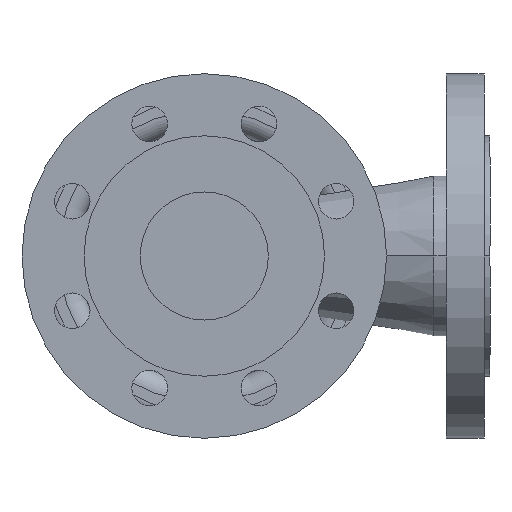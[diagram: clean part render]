
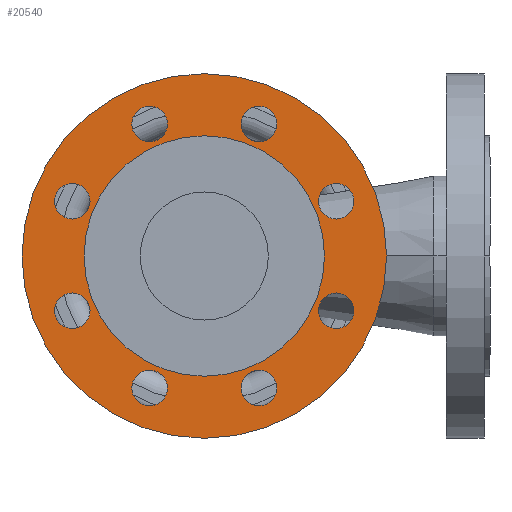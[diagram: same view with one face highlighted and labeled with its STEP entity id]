
A CAD part, front view. The second image highlights one B-rep face of the part: STEP entity #20540.
In plain terms, the highlighted planar face has unit normal (0, -1, 0).
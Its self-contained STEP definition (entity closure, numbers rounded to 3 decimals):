
#610=CARTESIAN_POINT('',(61.,3.,0.));
#620=VERTEX_POINT('',#610);
#650=CARTESIAN_POINT('',(0.,3.,0.));
#660=DIRECTION('',(0.,-1.,0.));
#670=DIRECTION('',(-1.,0.,0.));
#680=AXIS2_PLACEMENT_3D('',#650,#660,#670);
#690=CIRCLE('',#680,61.);
#700=CARTESIAN_POINT('',(-61.,3.,0.));
#710=VERTEX_POINT('',#700);
#720=EDGE_CURVE('',#710,#620,#690,.T.);
#7190=CARTESIAN_POINT('',(92.5,3.,0.));
#7200=VERTEX_POINT('',#7190);
#7230=CARTESIAN_POINT('',(0.,3.,0.));
#7240=DIRECTION('',(0.,1.,0.));
#7250=DIRECTION('',(1.,0.,0.));
#7260=AXIS2_PLACEMENT_3D('',#7230,#7240,#7250);
#7270=CIRCLE('',#7260,92.5);
#7280=CARTESIAN_POINT('',(-92.5,3.,0.));
#7290=VERTEX_POINT('',#7280);
#7300=EDGE_CURVE('',#7290,#7200,#7270,.T.);
#7680=CARTESIAN_POINT('',(57.981,3.,-27.745));
#7690=VERTEX_POINT('',#7680);
#7720=CARTESIAN_POINT('',(66.981,3.,-27.745));
#7730=DIRECTION('',(0.,1.,0.));
#7740=DIRECTION('',(1.,0.,0.));
#7750=AXIS2_PLACEMENT_3D('',#7720,#7730,#7740);
#7760=CIRCLE('',#7750,9.);
#7770=CARTESIAN_POINT('',(75.981,3.,-27.745));
#7780=VERTEX_POINT('',#7770);
#7790=EDGE_CURVE('',#7690,#7780,#7760,.T.);
#8170=CARTESIAN_POINT('',(75.981,3.,27.745));
#8180=VERTEX_POINT('',#8170);
#8210=CARTESIAN_POINT('',(66.981,3.,27.745));
#8220=DIRECTION('',(0.,1.,0.));
#8230=DIRECTION('',(1.,0.,0.));
#8240=AXIS2_PLACEMENT_3D('',#8210,#8220,#8230);
#8250=CIRCLE('',#8240,9.);
#8260=CARTESIAN_POINT('',(57.981,3.,27.745));
#8270=VERTEX_POINT('',#8260);
#8280=EDGE_CURVE('',#8180,#8270,#8250,.T.);
#8660=CARTESIAN_POINT('',(36.745,3.,-66.981));
#8670=VERTEX_POINT('',#8660);
#8700=CARTESIAN_POINT('',(27.745,3.,-66.981));
#8710=DIRECTION('',(0.,1.,0.));
#8720=DIRECTION('',(1.,0.,0.));
#8730=AXIS2_PLACEMENT_3D('',#8700,#8710,#8720);
#8740=CIRCLE('',#8730,9.);
#8750=CARTESIAN_POINT('',(18.745,3.,-66.981));
#8760=VERTEX_POINT('',#8750);
#8770=EDGE_CURVE('',#8670,#8760,#8740,.T.);
#9150=CARTESIAN_POINT('',(36.745,3.,66.981));
#9160=VERTEX_POINT('',#9150);
#9320=CARTESIAN_POINT('',(18.745,3.,66.981));
#9330=VERTEX_POINT('',#9320);
#9360=CARTESIAN_POINT('',(27.745,3.,66.981));
#9370=DIRECTION('',(0.,1.,0.));
#9380=DIRECTION('',(1.,0.,0.));
#9390=AXIS2_PLACEMENT_3D('',#9360,#9370,#9380);
#9400=CIRCLE('',#9390,9.);
#9410=EDGE_CURVE('',#9330,#9160,#9400,.T.);
#9640=CARTESIAN_POINT('',(-36.745,3.,-66.981));
#9650=VERTEX_POINT('',#9640);
#9810=CARTESIAN_POINT('',(-18.745,3.,-66.981));
#9820=VERTEX_POINT('',#9810);
#9850=CARTESIAN_POINT('',(-27.745,3.,-66.981));
#9860=DIRECTION('',(0.,1.,0.));
#9870=DIRECTION('',(1.,0.,0.));
#9880=AXIS2_PLACEMENT_3D('',#9850,#9860,#9870);
#9890=CIRCLE('',#9880,9.);
#9900=EDGE_CURVE('',#9820,#9650,#9890,.T.);
#10130=CARTESIAN_POINT('',(-36.745,3.,66.981));
#10140=VERTEX_POINT('',#10130);
#10300=CARTESIAN_POINT('',(-18.745,3.,66.981));
#10310=VERTEX_POINT('',#10300);
#10340=CARTESIAN_POINT('',(-27.745,3.,66.981));
#10350=DIRECTION('',(0.,1.,0.));
#10360=DIRECTION('',(1.,0.,0.));
#10370=AXIS2_PLACEMENT_3D('',#10340,#10350,#10360);
#10380=CIRCLE('',#10370,9.);
#10390=EDGE_CURVE('',#10310,#10140,#10380,.T.);
#10620=CARTESIAN_POINT('',(-57.981,3.,-27.745));
#10630=VERTEX_POINT('',#10620);
#10790=CARTESIAN_POINT('',(-75.981,3.,-27.745));
#10800=VERTEX_POINT('',#10790);
#10830=CARTESIAN_POINT('',(-66.981,3.,-27.745));
#10840=DIRECTION('',(0.,1.,0.));
#10850=DIRECTION('',(1.,0.,0.));
#10860=AXIS2_PLACEMENT_3D('',#10830,#10840,#10850);
#10870=CIRCLE('',#10860,9.);
#10880=EDGE_CURVE('',#10800,#10630,#10870,.T.);
#11110=CARTESIAN_POINT('',(-57.981,3.,27.745));
#11120=VERTEX_POINT('',#11110);
#11150=CARTESIAN_POINT('',(-66.981,3.,27.745));
#11160=DIRECTION('',(0.,1.,0.));
#11170=DIRECTION('',(1.,0.,0.));
#11180=AXIS2_PLACEMENT_3D('',#11150,#11160,#11170);
#11190=CIRCLE('',#11180,9.);
#11200=CARTESIAN_POINT('',(-75.981,3.,27.745));
#11210=VERTEX_POINT('',#11200);
#11220=EDGE_CURVE('',#11120,#11210,#11190,.T.);
#19990=CARTESIAN_POINT('',(0.,3.,0.));
#20000=DIRECTION('',(0.,1.,0.));
#20010=DIRECTION('',(0.,0.,1.));
#20020=AXIS2_PLACEMENT_3D('',#19990,#20000,#20010);
#20030=PLANE('',#20020);
#20040=EDGE_CURVE('',#11210,#11120,#11190,.T.);
#20050=ORIENTED_EDGE('',*,*,#20040,.T.);
#20060=ORIENTED_EDGE('',*,*,#11220,.T.);
#20070=EDGE_LOOP('',(#20060,#20050));
#20080=FACE_BOUND('',#20070,.T.);
#20090=EDGE_CURVE('',#10630,#10800,#10870,.T.);
#20100=ORIENTED_EDGE('',*,*,#20090,.T.);
#20110=ORIENTED_EDGE('',*,*,#10880,.T.);
#20120=EDGE_LOOP('',(#20110,#20100));
#20130=FACE_BOUND('',#20120,.T.);
#20140=EDGE_CURVE('',#10140,#10310,#10380,.T.);
#20150=ORIENTED_EDGE('',*,*,#20140,.T.);
#20160=ORIENTED_EDGE('',*,*,#10390,.T.);
#20170=EDGE_LOOP('',(#20160,#20150));
#20180=FACE_BOUND('',#20170,.T.);
#20190=EDGE_CURVE('',#9650,#9820,#9890,.T.);
#20200=ORIENTED_EDGE('',*,*,#20190,.T.);
#20210=ORIENTED_EDGE('',*,*,#9900,.T.);
#20220=EDGE_LOOP('',(#20210,#20200));
#20230=FACE_BOUND('',#20220,.T.);
#20240=EDGE_CURVE('',#9160,#9330,#9400,.T.);
#20250=ORIENTED_EDGE('',*,*,#20240,.T.);
#20260=ORIENTED_EDGE('',*,*,#9410,.T.);
#20270=EDGE_LOOP('',(#20260,#20250));
#20280=FACE_BOUND('',#20270,.T.);
#20290=ORIENTED_EDGE('',*,*,#8770,.T.);
#20300=EDGE_CURVE('',#8760,#8670,#8740,.T.);
#20310=ORIENTED_EDGE('',*,*,#20300,.T.);
#20320=EDGE_LOOP('',(#20310,#20290));
#20330=FACE_BOUND('',#20320,.T.);
#20340=EDGE_CURVE('',#8270,#8180,#8250,.T.);
#20350=ORIENTED_EDGE('',*,*,#20340,.T.);
#20360=ORIENTED_EDGE('',*,*,#8280,.T.);
#20370=EDGE_LOOP('',(#20360,#20350));
#20380=FACE_BOUND('',#20370,.T.);
#20390=ORIENTED_EDGE('',*,*,#7790,.T.);
#20400=EDGE_CURVE('',#7780,#7690,#7760,.T.);
#20410=ORIENTED_EDGE('',*,*,#20400,.T.);
#20420=EDGE_LOOP('',(#20410,#20390));
#20430=FACE_BOUND('',#20420,.T.);
#20440=ORIENTED_EDGE('',*,*,#7300,.F.);
#20450=EDGE_CURVE('',#7200,#7290,#7270,.T.);
#20460=ORIENTED_EDGE('',*,*,#20450,.F.);
#20470=EDGE_LOOP('',(#20460,#20440));
#20480=FACE_OUTER_BOUND('',#20470,.T.);
#20490=ORIENTED_EDGE('',*,*,#720,.F.);
#20500=EDGE_CURVE('',#620,#710,#690,.T.);
#20510=ORIENTED_EDGE('',*,*,#20500,.F.);
#20520=EDGE_LOOP('',(#20510,#20490));
#20530=FACE_BOUND('',#20520,.T.);
#20540=ADVANCED_FACE('',(#20080,#20130,#20180,#20230,#20280,#20330,
#20380,#20430,#20480,#20530),#20030,.F.);
